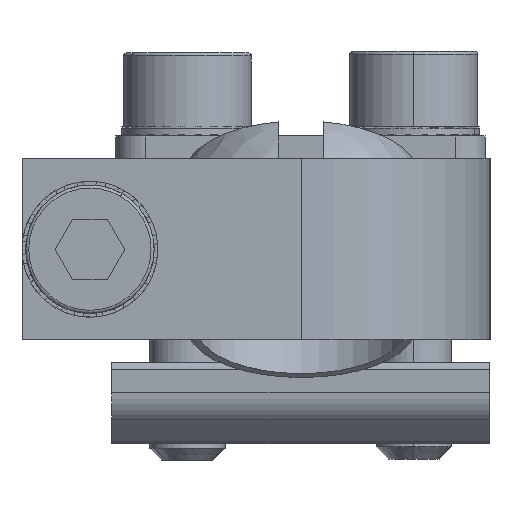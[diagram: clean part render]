
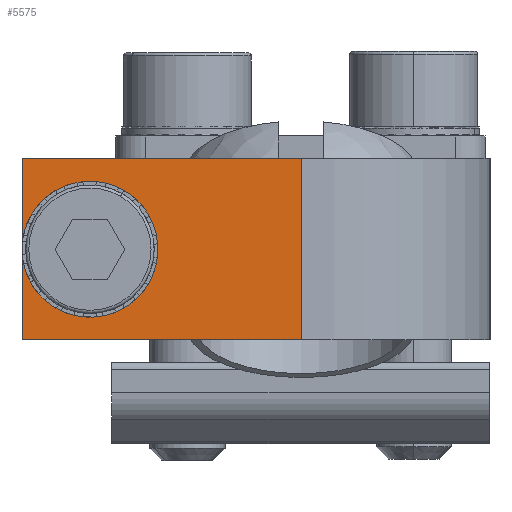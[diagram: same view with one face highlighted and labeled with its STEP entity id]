
A CAD part, left-side view. The second image highlights one B-rep face of the part: STEP entity #5575.
In plain terms, the highlighted planar face has unit normal (-1, 0, 0).
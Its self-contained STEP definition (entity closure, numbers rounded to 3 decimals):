
#4956=PLANE('',#17487);
#5219=FACE_BOUND('',#6943,.T.);
#5575=ADVANCED_FACE('',(#5219,#6286),#4956,.F.);
#6286=FACE_OUTER_BOUND('',#6944,.T.);
#6943=EDGE_LOOP('',(#11529));
#6944=EDGE_LOOP('',(#11530,#11531,#11532,#11533));
#7866=LINE('',#23678,#9040);
#7878=LINE('',#23713,#9052);
#7886=LINE('',#23743,#9060);
#7888=LINE('',#23746,#9062);
#9040=VECTOR('',#20031,1.);
#9052=VECTOR('',#20057,1.);
#9060=VECTOR('',#20081,1.);
#9062=VECTOR('',#20085,1.);
#11529=ORIENTED_EDGE('',*,*,#15327,.F.);
#11530=ORIENTED_EDGE('',*,*,#15356,.T.);
#11531=ORIENTED_EDGE('',*,*,#15373,.F.);
#11532=ORIENTED_EDGE('',*,*,#15338,.F.);
#11533=ORIENTED_EDGE('',*,*,#15371,.T.);
#13813=VERTEX_POINT('',#23655);
#13824=VERTEX_POINT('',#23677);
#13825=VERTEX_POINT('',#23679);
#13840=VERTEX_POINT('',#23712);
#13841=VERTEX_POINT('',#23714);
#15327=EDGE_CURVE('',#13813,#13813,#16505,.T.);
#15338=EDGE_CURVE('',#13824,#13825,#7866,.T.);
#15356=EDGE_CURVE('',#13841,#13840,#7878,.T.);
#15371=EDGE_CURVE('',#13824,#13841,#7886,.T.);
#15373=EDGE_CURVE('',#13825,#13840,#7888,.T.);
#16505=CIRCLE('',#17463,2.6);
#17463=AXIS2_PLACEMENT_3D('',#23654,#20011,#20012);
#17487=AXIS2_PLACEMENT_3D('',#23747,#20086,#20087);
#20011=DIRECTION('',(-1.,0.,0.));
#20012=DIRECTION('',(0.,1.,0.));
#20031=DIRECTION('',(0.,1.,0.));
#20057=DIRECTION('',(0.,1.,0.));
#20081=DIRECTION('',(0.,0.,1.));
#20085=DIRECTION('',(0.,0.,1.));
#20086=DIRECTION('',(1.,0.,0.));
#20087=DIRECTION('',(0.,-1.,0.));
#23654=CARTESIAN_POINT('',(-12.5,14.,-6.));
#23655=CARTESIAN_POINT('',(-12.5,16.6,-6.));
#23677=CARTESIAN_POINT('',(-12.5,0.,-12.));
#23678=CARTESIAN_POINT('',(-12.5,0.,-12.));
#23679=CARTESIAN_POINT('',(-12.5,18.5,-12.));
#23712=CARTESIAN_POINT('',(-12.5,18.5,0.));
#23713=CARTESIAN_POINT('',(-12.5,0.,0.));
#23714=CARTESIAN_POINT('',(-12.5,0.,0.));
#23743=CARTESIAN_POINT('',(-12.5,0.,-12.));
#23746=CARTESIAN_POINT('',(-12.5,18.5,-12.));
#23747=CARTESIAN_POINT('',(-12.5,0.,-12.));
